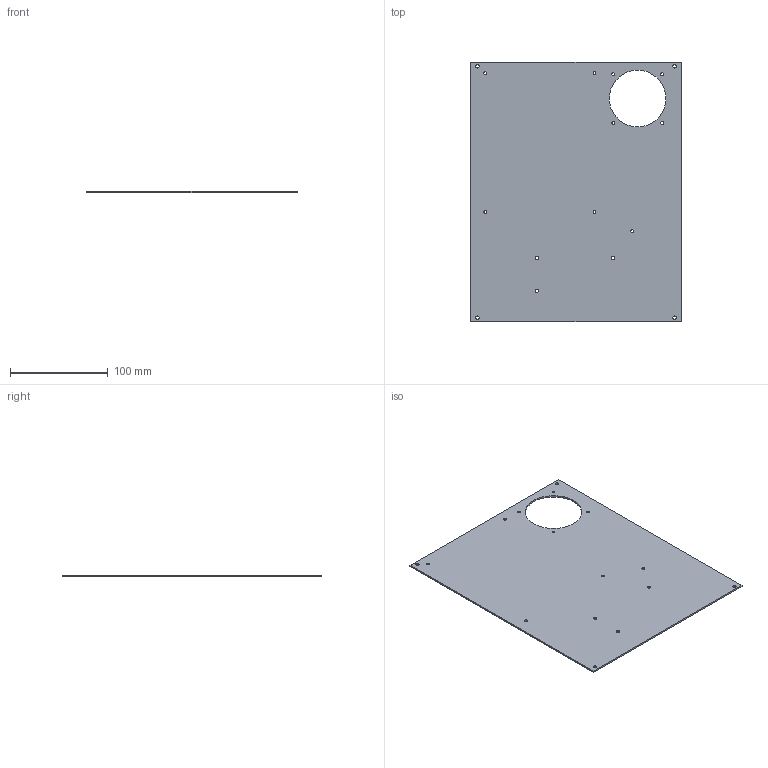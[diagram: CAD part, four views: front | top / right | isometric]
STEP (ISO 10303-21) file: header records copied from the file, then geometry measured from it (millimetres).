
FILE_DESCRIPTION (( 'STEP AP214' ), '1' );
FILE_NAME ('掙埭_菁啣_V1.STEP', '2026-06-22T03:08:42', ( '' ), ( '' ), 'SwSTEP 2.0', 'SolidWorks 2022', '' );
FILE_SCHEMA (( 'AUTOMOTIVE_DESIGN' ));
Length unit declared in the file: millimetre
Products named in the file (1): 泵源_底板_V1
Bounding box: 215 x 265 x 1.6 mm (x, y, z)
Volume: 86723.1 mm3; surface area: 110490.3 mm2
Topology: 1 solids, 1 shells, 40 faces, 114 edges, 76 vertices
Faces by surface type: cylinder 34, plane 6
Entity records: 1448 total; most frequent: DIRECTION 264, CARTESIAN_POINT 231, ORIENTED_EDGE 228, EDGE_CURVE 114, AXIS2_PLACEMENT_3D 109, VERTEX_POINT 76, EDGE_LOOP 74, CIRCLE 68
